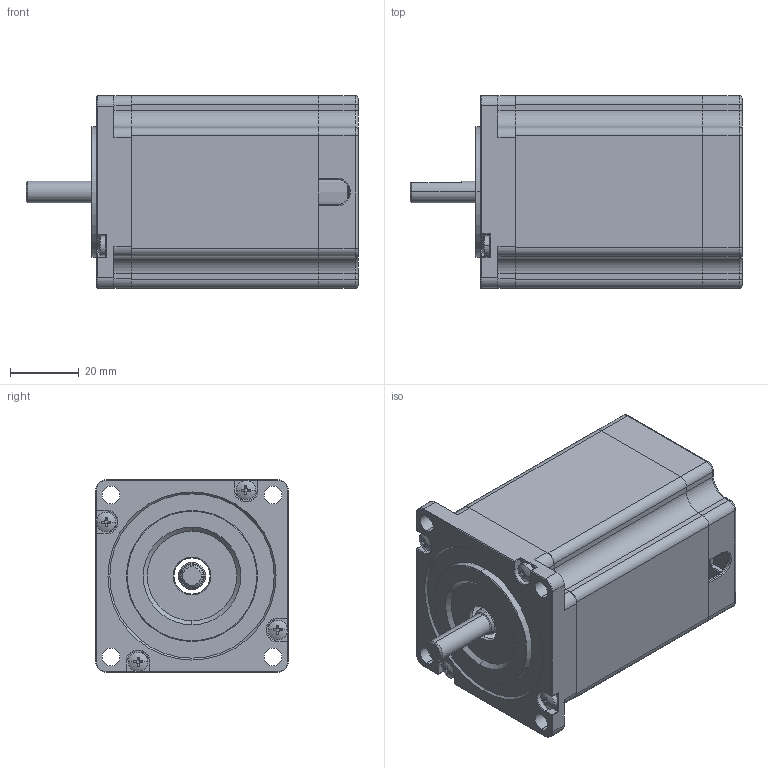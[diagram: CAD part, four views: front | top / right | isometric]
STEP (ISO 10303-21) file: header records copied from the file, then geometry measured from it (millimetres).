
FILE_DESCRIPTION (( 'STEP AP203' ), '1' );
FILE_NAME ('YK57HB56-4121A-01.STEP', '2021-04-08T09:31:43', ( 'Admin' ), ( '' ), 'SwSTEP 2.0', 'SolidWorks 2016', '' );
FILE_SCHEMA (( 'CONFIG_CONTROL_DESIGN' ));
Length unit declared in the file: millimetre
Products named in the file (6): YK57HBXX-4121A-01隅赽沺郋; YK57HB56-4121A-01; YK57HBXX-4121A-01粣郋; YK57HBXX-4121A-01綴裔; cross recessed pan head screws gb_GB_CROSS_SCREWS_TYPE1 M3X4-4  H type-N; YK57HBXX-4121A-01前盖
Assembly tree (8 placements, depth 2):
  YK57HB56-4121A-01
    YK57HBXX-4121A-01前盖
    YK57HBXX-4121A-01隅赽沺郋
    YK57HBXX-4121A-01綴裔
    YK57HBXX-4121A-01粣郋
    cross recessed pan head screws gb_GB_CROSS_SCREWS_TYPE1 M3X4-4  H type-N  x4
Bounding box: 96.6 x 56 x 56 mm (x, y, z)
Volume: 138613.8 mm3; surface area: 51847.5 mm2
Topology: 8 solids, 8 shells, 470 faces, 1187 edges, 737 vertices
Faces by surface type: cylinder 222, plane 163, cone 31, torus 30, sphere 24
Entity records: 12566 total; most frequent: DIRECTION 2232, CARTESIAN_POINT 2070, ORIENTED_EDGE 1954, EDGE_CURVE 977, AXIS2_PLACEMENT_3D 871, VERTEX_POINT 605, LINE 490, VECTOR 490
